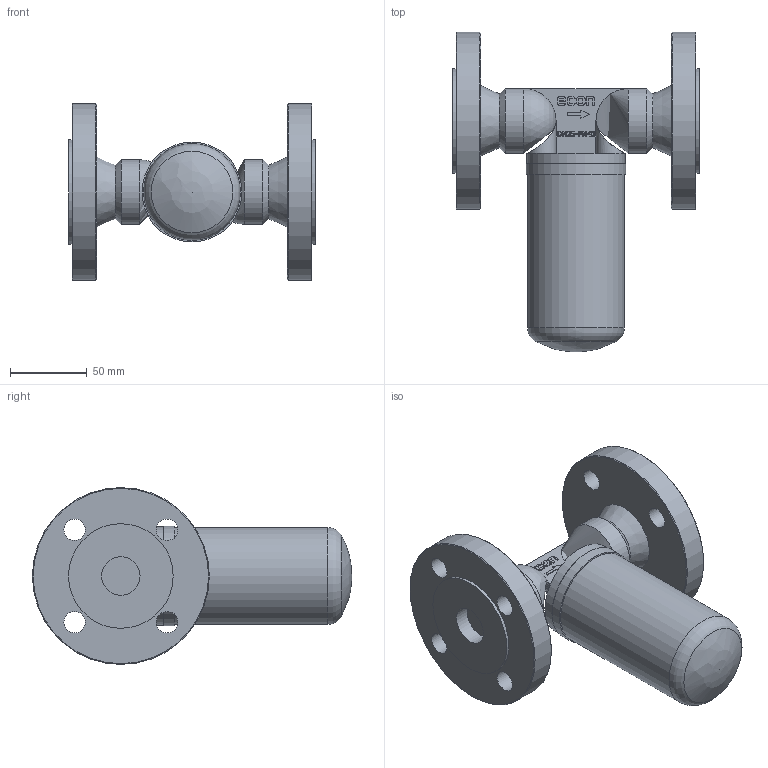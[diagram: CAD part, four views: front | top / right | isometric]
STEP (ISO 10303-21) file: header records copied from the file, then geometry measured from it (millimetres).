
FILE_DESCRIPTION(/* description */ (''),/* implementation_level */ '2;1');
FILE_NAME(/* name */ '8963EL-MAX_DP28-DN25-PN40.stp',/* time_stamp */ '2024-07-17T11:45:48+02:00',/* author */ ('roger.thijssen'),/* organization */ (''),/* preprocessor_version */ 'ST-DEVELOPER v20',/* originating_system */ 'Autodesk Inventor 2024',/* authorisation */ '');
FILE_SCHEMA (('AUTOMOTIVE_DESIGN { 1 0 10303 214 3 1 1 }'));
Length unit declared in the file: millimetre
Products named in the file (1): 8963E-DN25-PN40
Bounding box: 160 x 207.5 x 115 mm (x, y, z)
Volume: 825198.7 mm3; surface area: 101423.9 mm2
Topology: 1 solids, 1 shells, 249 faces, 648 edges, 421 vertices
Faces by surface type: plane 146, bspline 53, cylinder 39, cone 8, sphere 2, torus 1
Full cylindrical faces by diameter (mm): 14 x8, 18 x1, 25 x2, 42 x2, 63 x1, 64 x1, 65 x1, 68 x2, 115 x2
Entity records: 8394 total; most frequent: CARTESIAN_POINT 2244, ORIENTED_EDGE 1286, DIRECTION 1025, EDGE_CURVE 643, LINE 441, VECTOR 441, VERTEX_POINT 421, EDGE_LOOP 294
